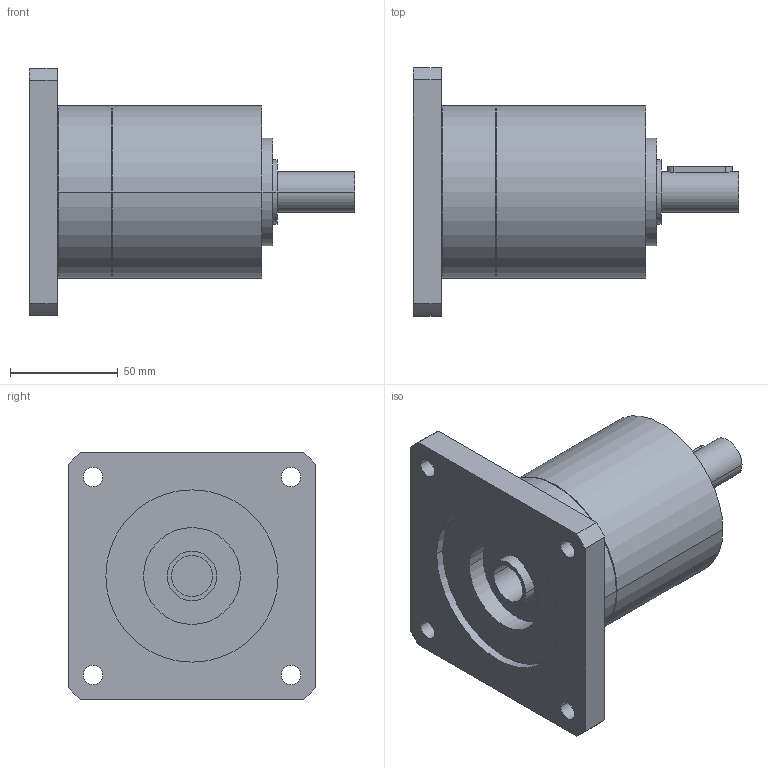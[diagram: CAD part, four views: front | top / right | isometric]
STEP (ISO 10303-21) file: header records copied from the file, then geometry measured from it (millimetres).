
FILE_DESCRIPTION(('CoCreate Modeling STEP Export'),'2;1');
FILE_NAME('GPR100_ig-3-4-5-6_19_B14_19_P30.stp','2014-08-26T10:08:57',(''),(''),'CoCreate Modeling STEP processor for AP214 (Solid Model)','CoCreate Modeling 16.00C 25-Feb-2009 (C) Parametric Technology GmbH','');
FILE_SCHEMA(('AUTOMOTIVE_DESIGN { 1 0 10303 214 1 1 1 1 }'));
Length unit declared in the file: millimetre
Products named in the file (2): GPR100_ig-3-4-5-6_19_B14_19_P30
Assembly tree (1 placements, depth 2):
  GPR100_ig-3-4-5-6_19_B14_19_P30
    GPR100_ig-3-4-5-6_19_B14_19_P30
Bounding box: 151 x 115 x 115 mm (x, y, z)
Volume: 623030.7 mm3; surface area: 66919.2 mm2
Topology: 1 solids, 1 shells, 70 faces, 183 edges, 127 vertices
Faces by surface type: cylinder 42, plane 22, cone 6
Entity records: 1914 total; most frequent: ORIENTED_EDGE 362, CARTESIAN_POINT 355, DIRECTION 262, EDGE_CURVE 181, VERTEX_POINT 127, AXIS2_PLACEMENT_3D 98, EDGE_LOOP 92, FACE_OUTER_BOUND 70
